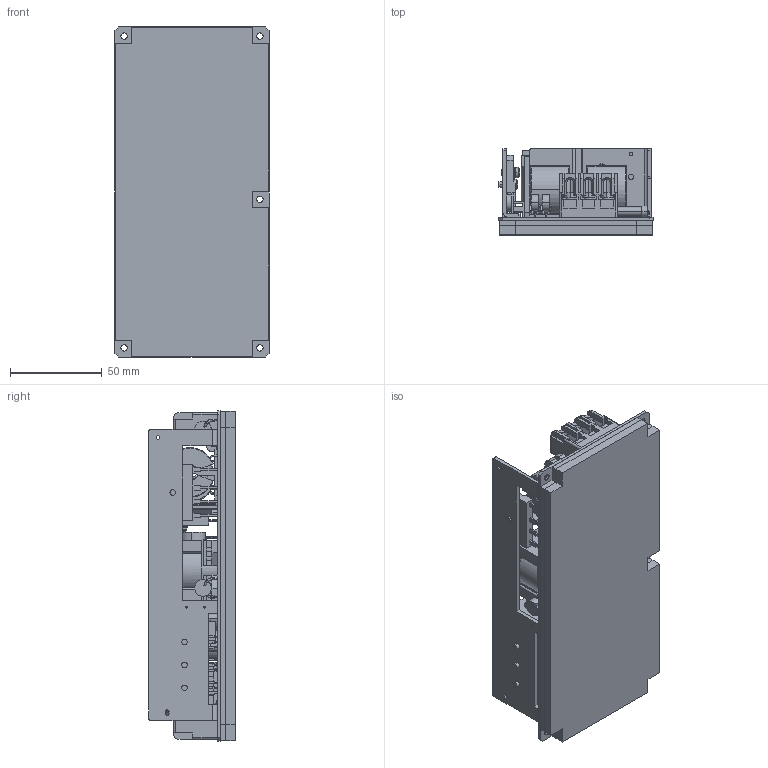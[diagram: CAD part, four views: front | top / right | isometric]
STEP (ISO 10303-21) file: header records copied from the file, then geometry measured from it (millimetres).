
FILE_DESCRIPTION (( 'STEP AP214' ), '1' );
FILE_NAME ('zws240bp_t_outline1.STEP', '2016-09-28T07:06:27', ( 'tluser' ), ( 'Microsoft' ), 'SwSTEP 2.0', 'SolidWorks 2013', '' );
FILE_SCHEMA (( 'AUTOMOTIVE_DESIGN' ));
Length unit declared in the file: millimetre
Products named in the file (1): zws240bp_t_outline1
Bounding box: 84 x 47 x 180 mm (x, y, z)
Volume: 295799.9 mm3; surface area: 147296.5 mm2
Topology: 2 solids, 2 shells, 2092 faces, 5820 edges, 3741 vertices
Faces by surface type: plane 1279, cylinder 562, bspline 161, cone 90
Entity records: 90152 total; most frequent: CARTESIAN_POINT 18574, ORIENTED_EDGE 11600, DIRECTION 10623, EDGE_CURVE 5800, VERTEX_POINT 3741, VECTOR 3735, LINE 3735, AXIS2_PLACEMENT_3D 3444
